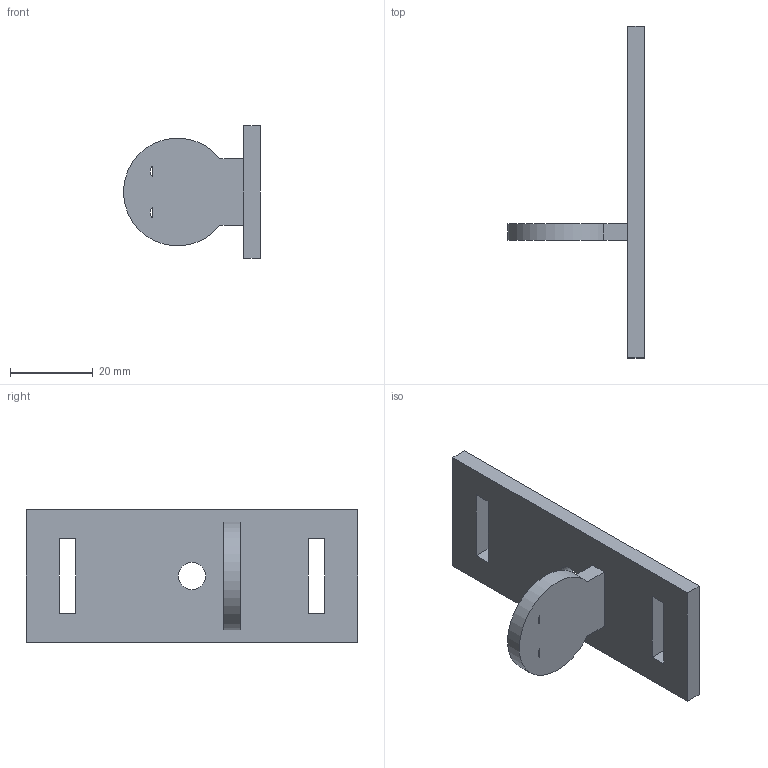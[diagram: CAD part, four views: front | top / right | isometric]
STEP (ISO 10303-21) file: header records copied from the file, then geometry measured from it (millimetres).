
FILE_DESCRIPTION(('Open CASCADE Model'),'2;1');
FILE_NAME('Open CASCADE Shape Model','2026-10-02T23:27:49',('Author'),( 'Open CASCADE'),'Open CASCADE STEP processor 7.9','Open CASCADE 7.9' ,'Unknown');
FILE_SCHEMA(('AUTOMOTIVE_DESIGN { 1 0 10303 214 1 1 1 1 }'));
Length unit declared in the file: millimetre
Products named in the file (1): Open CASCADE STEP translator 7.9 15
Bounding box: 32.95 x 80 x 32 mm (x, y, z)
Volume: 11890.4 mm3; surface area: 7559.6 mm2
Topology: 1 solids, 1 shells, 24 faces, 63 edges, 42 vertices
Faces by surface type: plane 20, cylinder 4
Full cylindrical faces by diameter (mm): 6.6 x1
Entity records: 1547 total; most frequent: CARTESIAN_POINT 338, DIRECTION 190, ORIENTED_EDGE 126, PCURVE 126, DEFINITIONAL_REPRESENTATION 126, LINE 121, VECTOR 121, EDGE_CURVE 63
